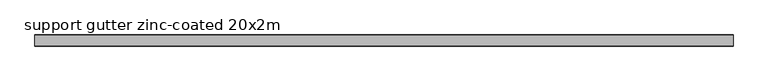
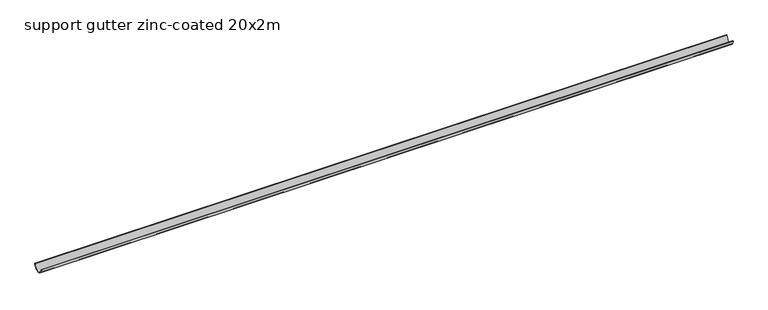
"""IFC4 building model written with IfcOpenShell, lengths in millimetres: valve geometry, PP-R_Support gutter zinc-coated : support gutter zinc-coated 20x2m."""

from ifc_helpers import new_model, si_unit, point, frame, frame_2d, origin, place, context, project, spatial, polyline, circle_curve, trimmed, segment, composite_curve, outline, extrude, source, transform, mapped, element, save


def support_gutter_zinc_coated_20x2m_9f0b929f(model_context):
    return source(origin(), model_context, "Body", "SweptSolid", [
        extrude(outline(composite_curve([segment(trimmed(circle_curve(frame_2d((0.0, -11.0)), 11.0), [point((-11.0, -11.0))], [point((11.0, -11.0))], True, "CARTESIAN"), True, "CONTINUOUS"), segment(polyline([(11.0, -11.0), (12.0, -11.0)]), True, "CONTINUOUS"), segment(trimmed(circle_curve(frame_2d((0.0, -11.0)), 12.0), [point((12.0, -11.0))], [point((-12.0, -11.0))], False, "CARTESIAN"), True, "CONTINUOUS"), segment(polyline([(-12.0, -11.0), (-11.0, -11.0)]), True, "CONTINUOUS")], self_intersect=False)), frame((9.5156627, 0.0, 0.0), z_axis=(1.0, 0.0, 0.0), x_axis=(0.0, 1.0, 0.0)), (0.0, 0.0, 1.0), 1500.0),
    ])


if __name__ == "__main__":
    model = new_model("IFC4")
    model_context = context("Model", 3, world=origin())
    ifc_project = project(units=[si_unit("LENGTHUNIT", "METRE", prefix="MILLI")], contexts=[model_context])
    site = spatial("IfcSite", under=ifc_project)
    building = spatial("IfcBuilding", under=site)
    placement = place(None, origin())
    support_gutter_zinc_coated_20x2m_shape = support_gutter_zinc_coated_20x2m_9f0b929f(model_context)
    element("IfcValve", 1, ObjectType="PP-R_Support gutter zinc-coated : support gutter zinc-coated 20x2m", at=placement, inside=building, context=model_context, shape_type="MappedRepresentation", body=[
        mapped(support_gutter_zinc_coated_20x2m_shape, transform((0.0, 0.0, 0.0), x_axis=(1.0, 0.0, 0.0), y_axis=(0.0, 1.0, 0.0), z_axis=(0.0, 0.0, 1.0))),
    ])
    save(model, "model.ifc")
